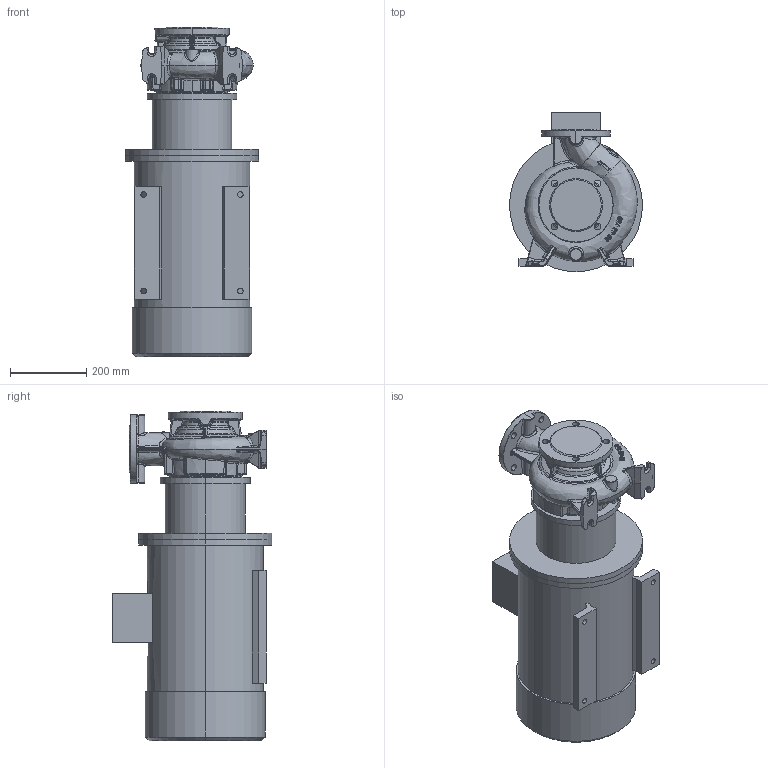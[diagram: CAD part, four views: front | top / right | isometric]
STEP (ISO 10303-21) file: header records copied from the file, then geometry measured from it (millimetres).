
FILE_DESCRIPTION (( 'STEP AP203' ), '1' );
FILE_NAME ('KRM 80-65-160-2-18,5.STEP', '2026-05-15T07:32:32', ( '' ), ( '' ), 'SwSTEP 2.0', 'SolidWorks 2016', '' );
FILE_SCHEMA (( 'CONFIG_CONTROL_DESIGN' ));
Products named in the file (1): KRM 80-65-160-2-18,5
Bounding box: 350 x 420 x 867.3 mm (x, y, z)
Volume: 57421719.4 mm3; surface area: 1696384.8 mm2
Topology: 14 solids, 14 shells, 1137 faces, 2722 edges, 1603 vertices
Faces by surface type: bspline 533, cylinder 216, plane 207, torus 104, cone 58, sphere 19
Entity records: 62274 total; most frequent: CARTESIAN_POINT 39904, ORIENTED_EDGE 5386, DIRECTION 3667, EDGE_CURVE 2693, VERTEX_POINT 1603, AXIS2_PLACEMENT_3D 1524, EDGE_LOOP 1192, FACE_OUTER_BOUND 1137
